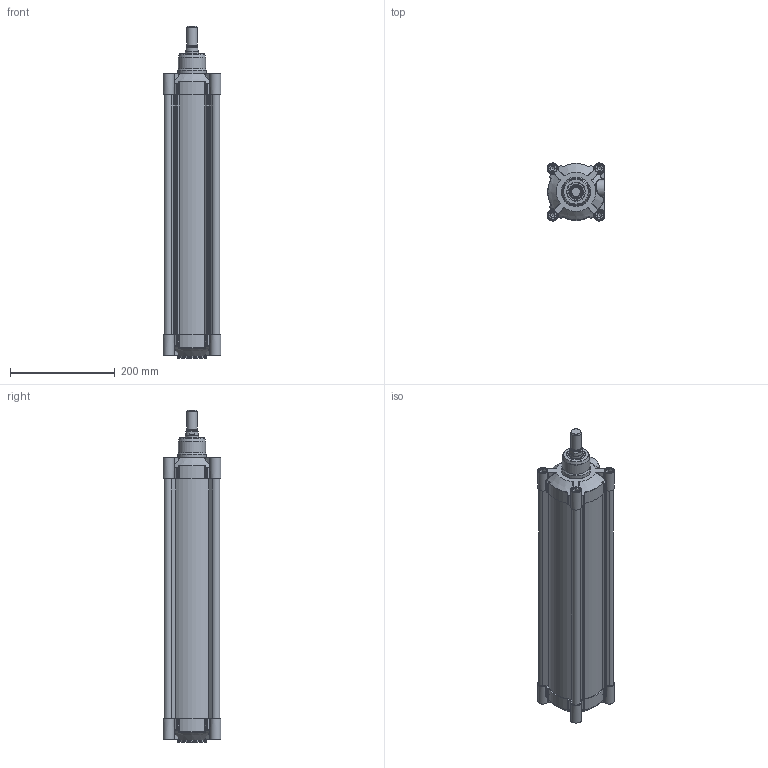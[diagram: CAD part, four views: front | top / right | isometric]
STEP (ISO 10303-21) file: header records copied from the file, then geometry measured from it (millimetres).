
FILE_DESCRIPTION(/* description */ (''),/* implementation_level */ '2;1');
FILE_NAME(/* name */ 'T:\Archivio Inventor\- 00 NUOVI STP PER SITO CON STELO CHE SI MUOVE\SERIE H - U\SERIE HDM\HDM100 - TUBO NUOVO\HDM100.400.GS.M.stp',/* time_stamp */ '2018-08-02T09:32:55+02:00',/* author */ ('carlo.corazza'),/* organization */ (''),/* preprocessor_version */ 'ST-DEVELOPER v16.5',/* originating_system */ 'Autodesk Inventor 2017',/* authorisation */ '');
FILE_SCHEMA (('AUTOMOTIVE_DESIGN { 1 0 10303 214 3 1 1 }'));
Length unit declared in the file: millimetre
Products named in the file (5): HDM100.400.GS.M; TP; TA; STELO-400; CORPO-400
Assembly tree (4 placements, depth 2):
  HDM100.400.GS.M
    TP
    TA
    STELO-400
    CORPO-400
Bounding box: 110 x 110 x 633 mm (x, y, z)
Volume: 1600548.4 mm3; surface area: 707396.3 mm2
Topology: 4 solids, 29 shells, 1355 faces, 3135 edges, 1912 vertices
Faces by surface type: plane 408, cylinder 313, bspline 270, torus 126, cone 122, sphere 116
Full cylindrical faces by diameter (mm): 5 x2, 5.9 x2, 6.5 x2, 7.25 x2, 8.376 x8, 9.4 x4, 10 x8, 10.3 x8, 11.8 x4, 11.9 x2, 12 x4, 16 x9, 16.3 x8, 17 x2, 17.5 x1, 18.631 x2, 20 x1, 24.5 x1, 25 x1, 25.8 x1, 25.962 x1, 30 x1, 31.5 x2, 35 x3, 52 x1, 55 x2, 100 x1
Entity records: 43668 total; most frequent: CARTESIAN_POINT 13702, ORIENTED_EDGE 5710, DIRECTION 5644, EDGE_CURVE 2855, AXIS2_PLACEMENT_3D 2293, VERTEX_POINT 1857, EDGE_LOOP 1690, STYLED_ITEM 1359
